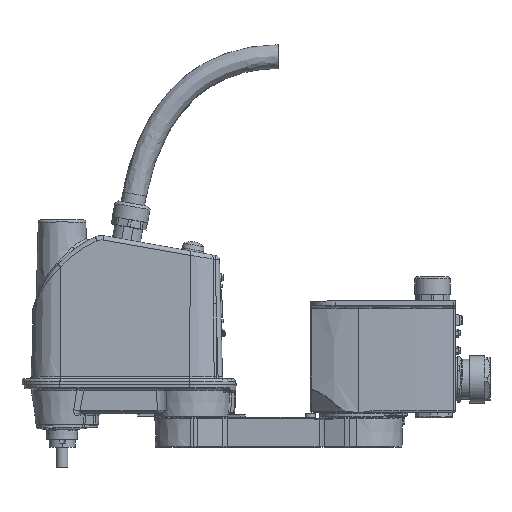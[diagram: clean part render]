
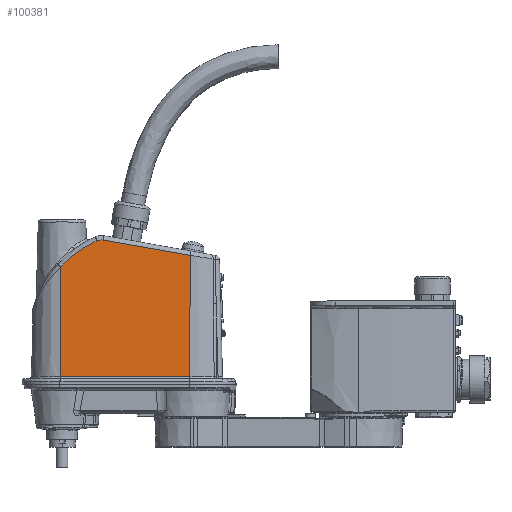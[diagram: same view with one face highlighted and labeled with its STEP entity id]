
A CAD part, top view. The second image highlights one B-rep face of the part: STEP entity #100381.
In plain terms, the highlighted planar face has unit normal (-0.051, 0.026, 0.998).
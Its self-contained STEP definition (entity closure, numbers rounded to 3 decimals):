
#96119=DIRECTION('',(-0.001,-1.,0.026));
#96120=VECTOR('',#96119,147.874);
#96121=CARTESIAN_POINT('',(-401.952,53.745,
37.898));
#96122=LINE('',#96121,#96120);
#96123=CARTESIAN_POINT('',(-295.332,-42.574,
45.914));
#96124=DIRECTION('',(0.051,-0.026,-0.998));
#96125=DIRECTION('',(-0.741,0.669,-0.056));
#96126=AXIS2_PLACEMENT_3D('',#96123,#96124,#96125);
#96128=CARTESIAN_POINT('',(-347.234,76.347,
40.123));
#96129=DIRECTION('',(0.051,-0.026,-0.998));
#96130=DIRECTION('',(-0.4,0.916,-0.045));
#96131=AXIS2_PLACEMENT_3D('',#96128,#96129,#96130);
#96133=DIRECTION('',(0.983,-0.173,0.055));
#96134=VECTOR('',#96133,119.384);
#96135=CARTESIAN_POINT('',(-344.784,90.154,
39.887));
#96136=LINE('',#96135,#96134);
#96137=DIRECTION('',(-0.999,0.,-0.051));
#96138=VECTOR('',#96137,174.768);
#96139=CARTESIAN_POINT('',(-227.614,-94.079,
50.752));
#96140=LINE('',#96139,#96138);
#96151=DIRECTION('',(0.001,1.,-0.026));
#96152=VECTOR('',#96151,163.59);
#96153=CARTESIAN_POINT('',(-227.614,-94.079,
50.752));
#96154=LINE('',#96153,#96152);
#96962=CARTESIAN_POINT('',(-352.837,89.189,
39.498));
#96963=CARTESIAN_POINT('',(-344.784,90.154,
39.887));
#96964=VERTEX_POINT('',#96962);
#96965=VERTEX_POINT('',#96963);
#96966=CARTESIAN_POINT('',(-227.614,-94.079,
50.752));
#96967=CARTESIAN_POINT('',(-402.151,-94.079,
41.763));
#96968=VERTEX_POINT('',#96966);
#96969=VERTEX_POINT('',#96967);
#96970=CARTESIAN_POINT('',(-227.393,69.455,
46.475));
#96971=VERTEX_POINT('',#96970);
#96972=CARTESIAN_POINT('',(-401.951,53.745,
37.898));
#96973=VERTEX_POINT('',#96972);
#100364=CARTESIAN_POINT('',(-314.758,-1.855,
43.846));
#100365=DIRECTION('',(-0.051,0.026,0.998));
#100366=DIRECTION('',(-0.999,0.,-0.051));
#100367=AXIS2_PLACEMENT_3D('',#100364,#100365,#100366);
#100368=PLANE('',#100367);
#100370=ORIENTED_EDGE('',*,*,#100369,.T.);
#100371=ORIENTED_EDGE('',*,*,#100352,.F.);
#100372=ORIENTED_EDGE('',*,*,#99991,.T.);
#100374=ORIENTED_EDGE('',*,*,#100373,.T.);
#100376=ORIENTED_EDGE('',*,*,#100375,.T.);
#100378=ORIENTED_EDGE('',*,*,#100377,.F.);
#100379=EDGE_LOOP('',(#100370,#100371,#100372,#100374,#100376,#100378));
#100380=FACE_OUTER_BOUND('',#100379,.F.);
#96127=CIRCLE('',#96126,143.907);
#96132=CIRCLE('',#96131,14.025);
#99991=EDGE_CURVE('',#96973,#96964,#96127,.T.);
#100352=EDGE_CURVE('',#96973,#96969,#96122,.T.);
#100369=EDGE_CURVE('',#96968,#96969,#96140,.T.);
#100373=EDGE_CURVE('',#96964,#96965,#96132,.T.);
#100375=EDGE_CURVE('',#96965,#96971,#96136,.T.);
#100377=EDGE_CURVE('',#96968,#96971,#96154,.T.);
#100381=ADVANCED_FACE('',(#100380),#100368,.T.);
